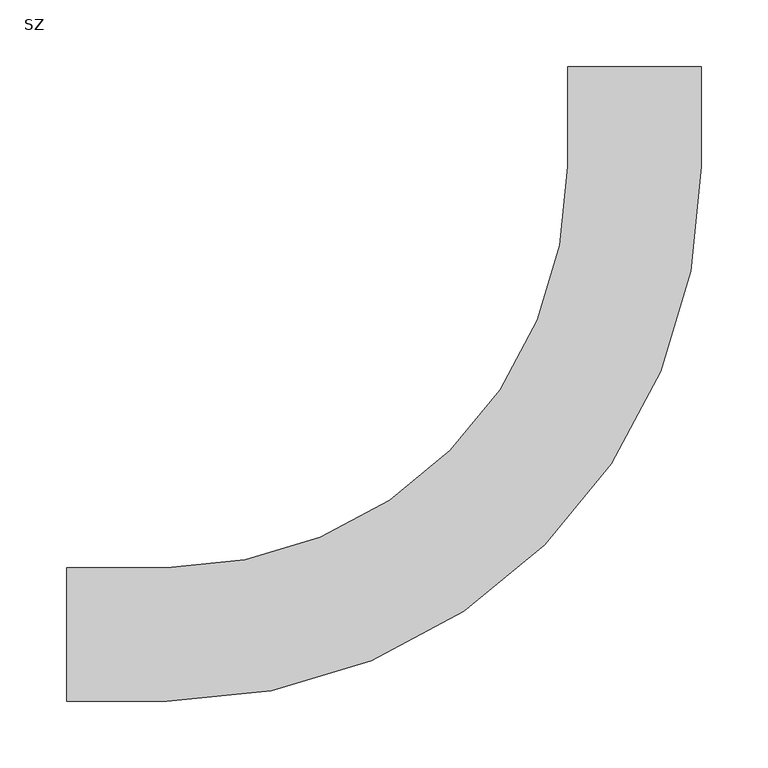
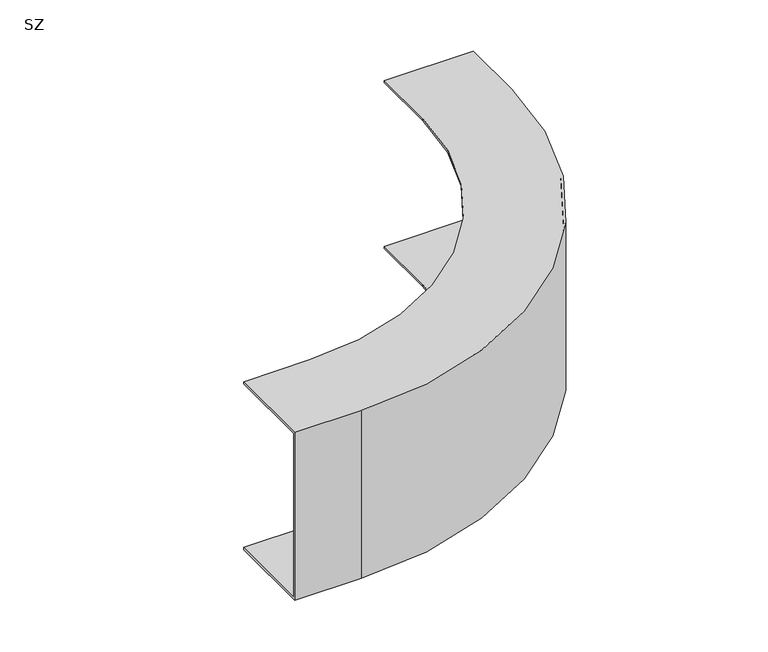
"""IFC4 building model written with IfcOpenShell, lengths in millimetres: cable carrier fitting geometry, IEK_Листовой_Поворот плавный вертик внутр : SZ."""

from ifc_helpers import new_model, si_unit, frame, origin, place, context, project, spatial, polyline, circle_curve, source, transform, mapped, element, save
from ifc_brep_helpers import plane_surface, cylinder_surface, revolved_surface, advanced_brep


def sz_ec6d16ca(model_context):
    return source(origin(), model_context, "Body", "AdvancedBrep", [
        advanced_brep(
        [(-425.0, 50.0, 100.0), (-425.0, 50.0, 97.5), (-425.0, -47.5, 97.5), (-425.0, -47.5, -97.5), (-425.0, 50.0, -97.5), (-425.0, 50.0, -100.0), (-425.0, -50.0, -100.0), (-425.0, -50.0, 100.0), (-50.0, 425.0, 100.0), (50.0, 425.0, 100.0), (50.0, 425.0, -100.0), (-50.0, 425.0, -100.0), (-50.0, 425.0, -97.5), (47.5, 425.0, -97.5), (47.5, 425.0, 97.5), (-50.0, 425.0, 97.5), (-350.0, -50.0, 100.0), (50.0, 350.0, 100.0), (-50.0, 350.0, 100.0), (-350.0, 50.0, 100.0), (-350.0, -50.0, -100.0), (-350.0, 50.0, -100.0), (-50.0, 350.0, -100.0), (50.0, 350.0, -100.0), (-350.0, 50.0, -97.5), (-350.0, -47.5, -97.5), (47.5, 350.0, -97.5), (-50.0, 350.0, -97.5), (-350.0, -47.5, 97.5), (-350.0, 50.0, 97.5), (-50.0, 350.0, 97.5), (47.5, 350.0, 97.5)],
        [
            (0, 1),
            (1, 2),
            (2, 3),
            (3, 4),
            (4, 5),
            (5, 6),
            (6, 7),
            (7, 0),
            (8, 9),
            (9, 10),
            (10, 11),
            (11, 12),
            (12, 13),
            (13, 14),
            (14, 15),
            (15, 8),
            (7, 16),
            (16, 17, circle_curve(frame((-350.0, 350.0, 100.0), z_axis=(0.0, 0.0, 1.0), x_axis=(0.0, -1.0, 0.0)), 400.0)),
            (17, 9),
            (8, 18),
            (18, 19, circle_curve(frame((-350.0, 350.0, 100.0), z_axis=(0.0, 0.0, -1.0), x_axis=(0.0, -1.0, 0.0)), 300.0)),
            (19, 0),
            (6, 20),
            (20, 16),
            (5, 21),
            (21, 22, circle_curve(frame((-350.0, 350.0, -100.0), z_axis=(0.0, 0.0, 1.0), x_axis=(0.0, -1.0, 0.0)), 300.0)),
            (22, 11),
            (10, 23),
            (23, 20, circle_curve(frame((-350.0, 350.0, -100.0), z_axis=(0.0, 0.0, -1.0), x_axis=(0.0, -1.0, 0.0)), 400.0)),
            (4, 24),
            (24, 21),
            (3, 25),
            (25, 26, circle_curve(frame((-350.0, 350.0, -97.5), z_axis=(0.0, 0.0, 1.0), x_axis=(0.0, -1.0, 0.0)), 397.5)),
            (26, 13),
            (12, 27),
            (27, 24, circle_curve(frame((-350.0, 350.0, -97.5), z_axis=(0.0, 0.0, -1.0), x_axis=(0.0, -1.0, 0.0)), 300.0)),
            (2, 28),
            (28, 25),
            (1, 29),
            (29, 30, circle_curve(frame((-350.0, 350.0, 97.5), z_axis=(0.0, 0.0, 1.0), x_axis=(0.0, -1.0, 0.0)), 300.0)),
            (30, 15),
            (14, 31),
            (31, 28, circle_curve(frame((-350.0, 350.0, 97.5), z_axis=(0.0, 0.0, -1.0), x_axis=(0.0, -1.0, 0.0)), 397.5)),
            (19, 29),
            (23, 17),
            (27, 22),
            (31, 26),
            (18, 30),
        ],
        [
            plane_surface(frame((-425.0, 0.0, 0.0), z_axis=(-1.0, 0.0, 0.0), x_axis=(0.0, 0.0, 1.0))),
            plane_surface(frame((0.0, 425.0, 0.0), z_axis=(0.0, 1.0, 0.0), x_axis=(0.0, 0.0, 1.0))),
            plane_surface(frame((-425.0, -50.0, 100.0), z_axis=(0.0, 0.0, 1.0), x_axis=(1.0, 0.0, 0.0))),
            plane_surface(frame((-425.0, -50.0, -100.0), z_axis=(0.0, -1.0, 0.0), x_axis=(1.0, 0.0, 0.0))),
            plane_surface(frame((-425.0, 50.0, -100.0), z_axis=(0.0, 0.0, -1.0), x_axis=(1.0, 0.0, 0.0))),
            plane_surface(frame((-425.0, 50.0, -97.5), z_axis=(0.0, 1.0, 0.0), x_axis=(1.0, 0.0, 0.0))),
            plane_surface(frame((-425.0, -47.5, -97.5), z_axis=(0.0, 0.0, 1.0), x_axis=(1.0, 0.0, 0.0))),
            plane_surface(frame((-425.0, -47.5, 97.5), z_axis=(0.0, 1.0, 0.0), x_axis=(1.0, 0.0, 0.0))),
            plane_surface(frame((-425.0, 50.0, 97.5), z_axis=(0.0, 0.0, -1.0), x_axis=(1.0, 0.0, 0.0))),
            plane_surface(frame((-425.0, 50.0, 100.0), z_axis=(0.0, 1.0, 0.0), x_axis=(1.0, 0.0, 0.0))),
            cylinder_surface(frame((-350.0, 350.0, 0.0), z_axis=(0.0, 0.0, 1.0), x_axis=(0.0, -1.0, 0.0)), 400.0),
            revolved_surface(polyline([(-350.0, 50.0, -97.5), (-350.0, 50.0, -100.0)]), (-350.0, 350.0, 0.0), (0.0, 0.0, 1.0)),
            revolved_surface(polyline([(-350.0, -47.5, 97.5), (-350.0, -47.5, -97.5)]), (-350.0, 350.0, 0.0), (0.0, 0.0, 1.0)),
            revolved_surface(polyline([(-350.0, 50.0, 100.0), (-350.0, 50.0, 97.5)]), (-350.0, 350.0, 0.0), (0.0, 0.0, 1.0)),
            plane_surface(frame((50.0, 350.0, -100.0), z_axis=(1.0, 0.0, 0.0), x_axis=(0.0, 1.0, 0.0))),
            plane_surface(frame((-50.0, 350.0, -97.5), z_axis=(-1.0, 0.0, 0.0), x_axis=(0.0, 1.0, 0.0))),
            plane_surface(frame((47.5, 350.0, 97.5), z_axis=(-1.0, 0.0, 0.0), x_axis=(0.0, 1.0, 0.0))),
            plane_surface(frame((-50.0, 350.0, 100.0), z_axis=(-1.0, 0.0, 0.0), x_axis=(0.0, 1.0, 0.0))),
        ],
        [
            (0, [[1, 2, 3, 4, 5, 6, 7, 8]]),
            (1, [[9, 10, 11, 12, 13, 14, 15, 16]]),
            (2, [[-8, 17, 18, 19, -9, 20, 21, 22]]),
            (3, [[-7, 23, 24, -17]]),
            (4, [[-6, 25, 26, 27, -11, 28, 29, -23]]),
            (5, [[-5, 30, 31, -25]]),
            (6, [[-4, 32, 33, 34, -13, 35, 36, -30]]),
            (7, [[-3, 37, 38, -32]]),
            (8, [[-2, 39, 40, 41, -15, 42, 43, -37]]),
            (9, [[-1, -22, 44, -39]]),
            (10, [[-18, -24, -29, 45]]),
            (11, [[-26, -31, -36, 46]]),
            (12, [[-33, -38, -43, 47]]),
            (13, [[-40, -44, -21, 48]]),
            (14, [[-45, -28, -10, -19]]),
            (15, [[-46, -35, -12, -27]]),
            (16, [[-47, -42, -14, -34]]),
            (17, [[-48, -20, -16, -41]]),
        ],
    ),
    ])


if __name__ == "__main__":
    model = new_model("IFC4")
    model_context = context("Model", 3, world=origin())
    ifc_project = project(units=[si_unit("LENGTHUNIT", "METRE", prefix="MILLI")], contexts=[model_context])
    site = spatial("IfcSite", under=ifc_project)
    building = spatial("IfcBuilding", under=site)
    placement = place(None, origin())
    sz_shape = sz_ec6d16ca(model_context)
    element("IfcCableCarrierFitting", 1, ObjectType="IEK_Листовой_Поворот плавный вертик внутр : SZ", at=placement, inside=building, context=model_context, shape_type="MappedRepresentation", body=[
        mapped(sz_shape, transform((0.0, 0.0, 0.0), x_axis=(1.0, 0.0, 0.0), y_axis=(0.0, 1.0, 0.0), z_axis=(0.0, 0.0, 1.0))),
    ])
    save(model, "model.ifc")
